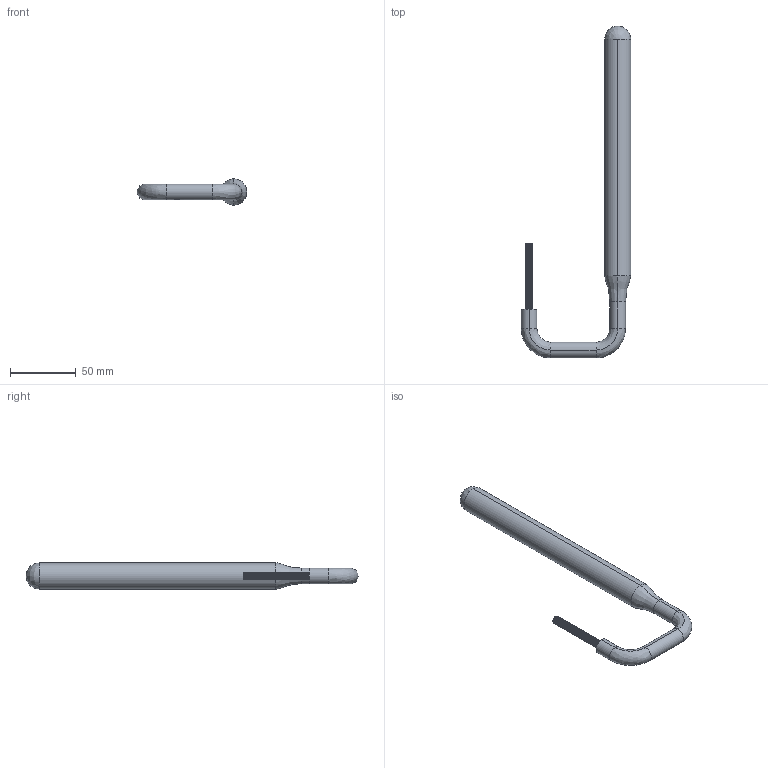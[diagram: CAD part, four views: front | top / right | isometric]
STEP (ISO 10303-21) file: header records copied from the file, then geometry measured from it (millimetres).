
FILE_DESCRIPTION(/* description */ (''),/* implementation_level */ '2;1');
FILE_NAME(/* name */ 'Option2',/* time_stamp */ '2026-08-18T16:50:36+02:00',/* author */ (''),/* organization */ (''),/* preprocessor_version */ 'ST-DEVELOPER v19.2',/* originating_system */ 'Rhino 8.34',/* authorisation */ '');
FILE_SCHEMA (('CONFIG_CONTROL_DESIGN'));
Length unit declared in the file: millimetre
Products named in the file (1): Document
Bounding box: 83.47 x 252.73 x 20 mm (x, y, z)
Volume: 77014.4 mm3; surface area: 19170.5 mm2
Topology: 1 solids, 1 shells, 422 faces, 895 edges, 474 vertices
Faces by surface type: bspline 311, cylinder 108, plane 3
Entity records: 15684 total; most frequent: CARTESIAN_POINT 7684, ORIENTED_EDGE 1786, DIRECTION 1255, EDGE_CURVE 893, AXIS2_PLACEMENT_3D 683, TRIMMED_CURVE 570, CIRCLE 570, VERTEX_POINT 474
